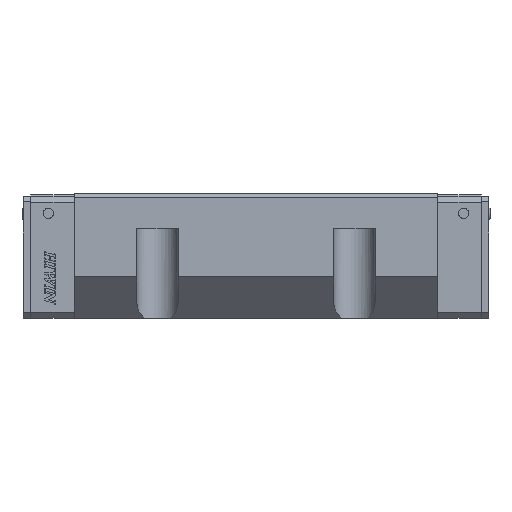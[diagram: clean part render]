
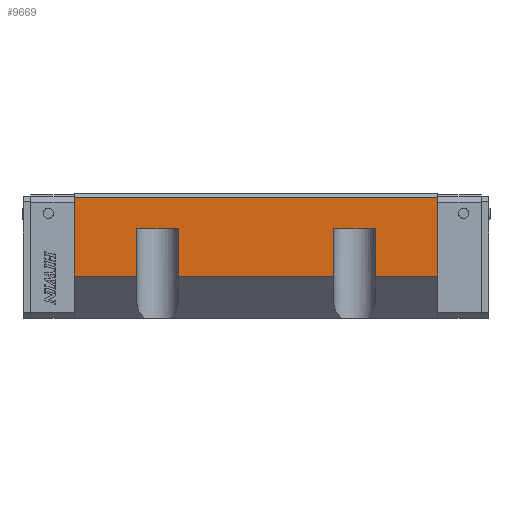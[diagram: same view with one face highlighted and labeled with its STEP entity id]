
A CAD part, top view. The second image highlights one B-rep face of the part: STEP entity #9669.
In plain terms, the highlighted planar face has unit normal (0, 0, 1) as drawn and (-1, 0, 0) by its records, which use the part's own axes.
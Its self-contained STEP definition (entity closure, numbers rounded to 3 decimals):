
#124=PLANE('',#10321);
#528=FACE_OUTER_BOUND('',#1063,.T.);
#1063=EDGE_LOOP('',(#6905,#6906,#6907,#6908,#6909,#6910,#6911,#6912,#6913,
#6914,#6915,#6916));
#1584=LINE('',#13934,#2748);
#1616=LINE('',#14000,#2780);
#1667=LINE('',#14125,#2831);
#1670=LINE('',#14134,#2834);
#1679=LINE('',#14157,#2843);
#1682=LINE('',#14163,#2846);
#1690=LINE('',#14185,#2854);
#1693=LINE('',#14191,#2857);
#1700=LINE('',#14210,#2864);
#1701=LINE('',#14211,#2865);
#1702=LINE('',#14212,#2866);
#1703=LINE('',#14213,#2867);
#2748=VECTOR('',#11135,38.15);
#2780=VECTOR('',#11171,38.15);
#2831=VECTOR('',#11306,20.);
#2834=VECTOR('',#11313,20.);
#2843=VECTOR('',#11334,22.95);
#2846=VECTOR('',#11339,22.95);
#2854=VECTOR('',#11365,22.95);
#2857=VECTOR('',#11370,22.95);
#2864=VECTOR('',#11395,75.);
#2865=VECTOR('',#11396,30.15);
#2866=VECTOR('',#11397,175.3);
#2867=VECTOR('',#11398,30.15);
#4208=VERTEX_POINT('',#13931);
#4209=VERTEX_POINT('',#13933);
#4240=VERTEX_POINT('',#13997);
#4241=VERTEX_POINT('',#13999);
#4272=VERTEX_POINT('',#14123);
#4273=VERTEX_POINT('',#14124);
#4276=VERTEX_POINT('',#14132);
#4277=VERTEX_POINT('',#14133);
#4285=VERTEX_POINT('',#14156);
#4287=VERTEX_POINT('',#14162);
#4292=VERTEX_POINT('',#14184);
#4294=VERTEX_POINT('',#14190);
#5181=EDGE_CURVE('',#4209,#4208,#1584,.T.);
#5214=EDGE_CURVE('',#4241,#4240,#1616,.T.);
#5278=EDGE_CURVE('',#4272,#4273,#1667,.T.);
#5282=EDGE_CURVE('',#4276,#4277,#1670,.T.);
#5294=EDGE_CURVE('',#4273,#4285,#1679,.T.);
#5297=EDGE_CURVE('',#4287,#4272,#1682,.T.);
#5309=EDGE_CURVE('',#4277,#4292,#1690,.T.);
#5312=EDGE_CURVE('',#4294,#4276,#1693,.T.);
#5323=EDGE_CURVE('',#4285,#4294,#1700,.T.);
#5324=EDGE_CURVE('',#4292,#4241,#1701,.T.);
#5325=EDGE_CURVE('',#4240,#4209,#1702,.T.);
#5326=EDGE_CURVE('',#4287,#4208,#1703,.T.);
#6905=ORIENTED_EDGE('',*,*,#5297,.T.);
#6906=ORIENTED_EDGE('',*,*,#5278,.T.);
#6907=ORIENTED_EDGE('',*,*,#5294,.T.);
#6908=ORIENTED_EDGE('',*,*,#5323,.T.);
#6909=ORIENTED_EDGE('',*,*,#5312,.T.);
#6910=ORIENTED_EDGE('',*,*,#5282,.T.);
#6911=ORIENTED_EDGE('',*,*,#5309,.T.);
#6912=ORIENTED_EDGE('',*,*,#5324,.T.);
#6913=ORIENTED_EDGE('',*,*,#5214,.T.);
#6914=ORIENTED_EDGE('',*,*,#5325,.T.);
#6915=ORIENTED_EDGE('',*,*,#5181,.T.);
#6916=ORIENTED_EDGE('',*,*,#5326,.F.);
#9669=ADVANCED_FACE('',(#528),#124,.T.);
#10321=AXIS2_PLACEMENT_3D('',#14209,#11393,#11394);
#11135=DIRECTION('',(0.,-1.,0.));
#11171=DIRECTION('',(0.,1.,0.));
#11306=DIRECTION('',(0.,0.,1.));
#11313=DIRECTION('',(0.,0.,1.));
#11334=DIRECTION('',(0.,-1.,0.));
#11339=DIRECTION('',(0.,1.,0.));
#11365=DIRECTION('',(0.,-1.,0.));
#11370=DIRECTION('',(0.,1.,0.));
#11393=DIRECTION('center_axis',(-1.,0.,0.));
#11394=DIRECTION('ref_axis',(0.,0.,1.));
#11395=DIRECTION('',(0.,0.,1.));
#11396=DIRECTION('',(0.,0.,1.));
#11397=DIRECTION('',(0.,0.,-1.));
#11398=DIRECTION('',(0.,0.,-1.));
#13931=CARTESIAN_POINT('',(-70.,19.85,-87.65));
#13933=CARTESIAN_POINT('',(-70.,58.,-87.65));
#13934=CARTESIAN_POINT('',(-70.,58.,-87.65));
#13997=CARTESIAN_POINT('',(-70.,58.,87.65));
#13999=CARTESIAN_POINT('',(-70.,19.85,87.65));
#14000=CARTESIAN_POINT('',(-70.,19.85,87.65));
#14123=CARTESIAN_POINT('',(-70.,43.,-57.5));
#14124=CARTESIAN_POINT('',(-70.,43.,-37.5));
#14125=CARTESIAN_POINT('',(-70.,43.,-57.5));
#14132=CARTESIAN_POINT('',(-70.,43.,37.5));
#14133=CARTESIAN_POINT('',(-70.,43.,57.5));
#14134=CARTESIAN_POINT('',(-70.,43.,37.5));
#14156=CARTESIAN_POINT('',(-70.,19.85,-37.5));
#14157=CARTESIAN_POINT('',(-70.,42.8,-37.5));
#14162=CARTESIAN_POINT('',(-70.,19.85,-57.5));
#14163=CARTESIAN_POINT('',(-70.,19.85,-57.5));
#14184=CARTESIAN_POINT('',(-70.,19.85,57.5));
#14185=CARTESIAN_POINT('',(-70.,42.8,57.5));
#14190=CARTESIAN_POINT('',(-70.,19.85,37.5));
#14191=CARTESIAN_POINT('',(-70.,19.85,37.5));
#14209=CARTESIAN_POINT('Origin',(-70.,58.,0.));
#14210=CARTESIAN_POINT('',(-70.,19.85,-37.5));
#14211=CARTESIAN_POINT('',(-70.,19.85,57.5));
#14212=CARTESIAN_POINT('',(-70.,58.,87.65));
#14213=CARTESIAN_POINT('',(-70.,19.85,-57.5));
